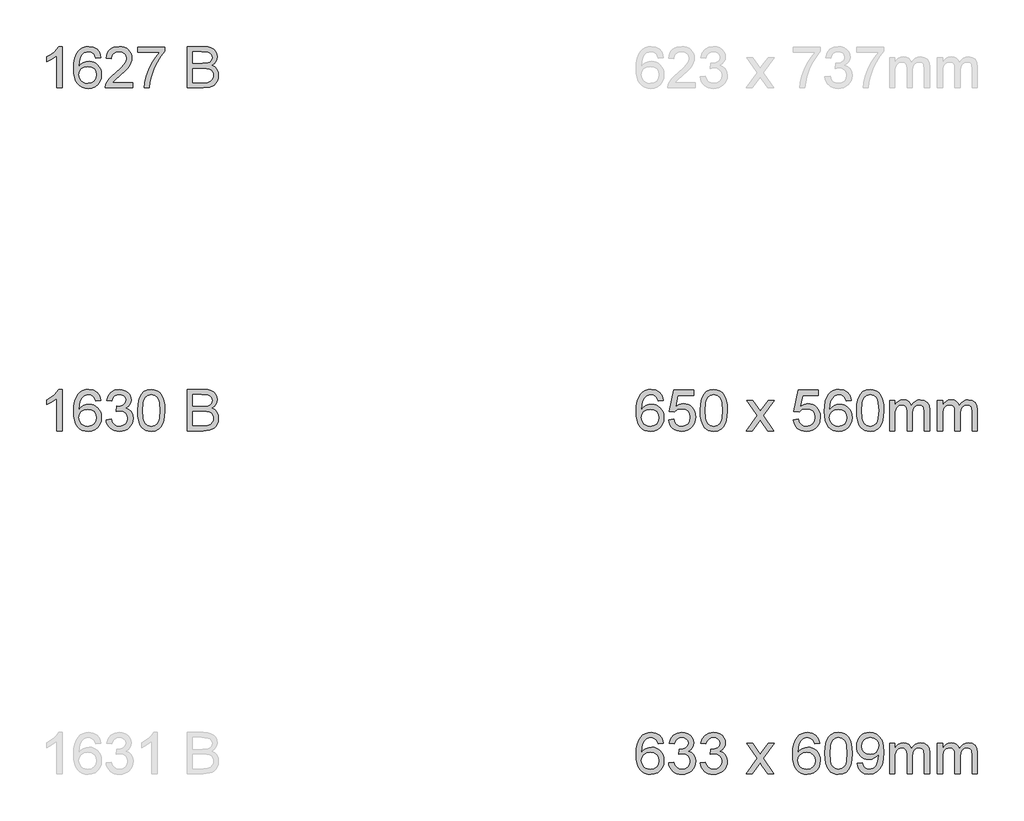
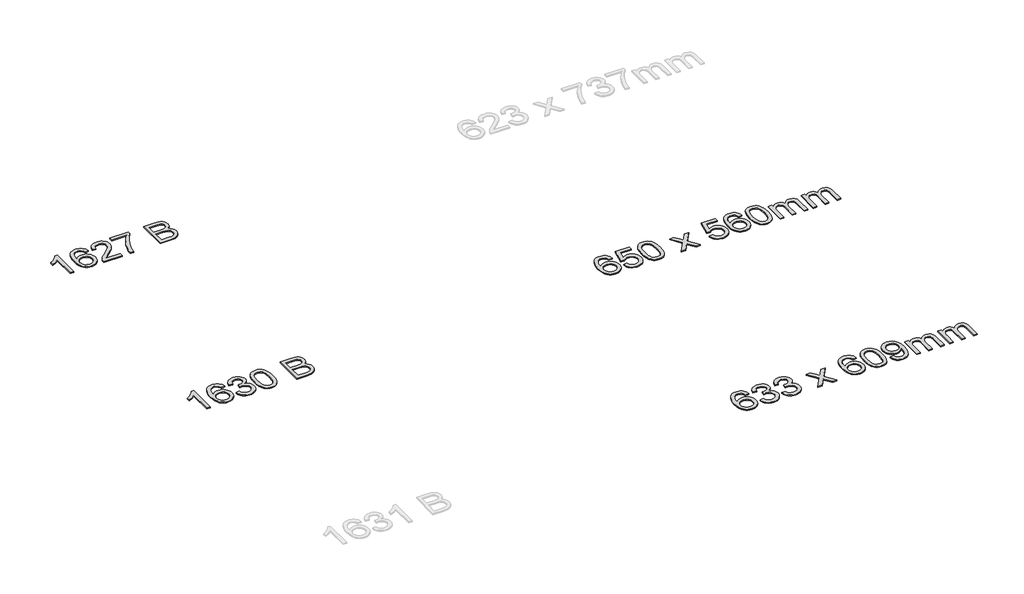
# One storey, part 29 of 39: 4 proxies.
"""IFC4 building model written with IfcOpenShell, lengths in millimetres."""

from ifc_helpers import new_model, si_unit, origin, origin_with_axes, place, context, project, spatial, polyline, outline, extrude, element, save

model = new_model("IFC4")

# Units and contexts
model_context = context("Model", 3, world=origin())
ifc_project = project(units=[si_unit("LENGTHUNIT", "METRE", prefix="MILLI")], contexts=[model_context])

# Site, building, storey
site = spatial("IfcSite", under=ifc_project)
building = spatial("IfcBuilding", under=site)
storey = spatial("IfcBuildingStorey", under=building, Name="Marelli - Linha PROFIT - Planta Baixa", Elevation=0.0)

# Proxies
placement = place(None, origin())
element("IfcBuildingElementProxy", 1, Name="300mm Arial", ObjectType="300mm Arial", at=placement, inside=storey, context=model_context, shape_type="SweptSolid", body=[
    extrude(outline(polyline([(-29517.1779543, -780.5663201), (-29554.8490706, -780.5663201), (-29554.8490706, -545.7104543), (-29590.5336241, -571.1311002), (-29630.1913032, -590.1505994), (-29630.1913032, -554.5396222), (-29600.6043938, -538.4447849), (-29574.9722158, -519.2965271), (-29554.7662972, -498.9342587), (-29541.458166, -479.1973896), (-29517.1779543, -479.1973896), (-29517.1779543, -780.5663201)])), origin_with_axes(), (0.0, 0.0, 1.0), 10.0),
    extrude(outline(polyline([(-29234.644582, -559.2485118), (-29272.3156983, -563.9574013), (-29278.3857512, -545.2873901), (-29286.5895197, -532.5402789), (-29303.6776384, -520.7864492), (-29324.3342124, -516.8685059), (-29341.8453954, -519.1493743), (-29358.3265088, -525.9919794), (-29372.4807686, -540.4037566), (-29384.0414603, -560.2417932), (-29391.8497556, -588.3019923), (-29394.7468263, -627.3802573), (-29379.6360734, -609.7495127), (-29361.5270821, -597.3242983), (-29341.4315282, -589.9574613), (-29320.3610869, -587.501849), (-29302.2612927, -589.1803106), (-29285.5594501, -594.2156954), (-29270.2555591, -602.6080034), (-29256.3496197, -614.3572346), (-29244.7935266, -628.7644133), (-29236.5391743, -645.1305635), (-29231.5865629, -663.4556854), (-29229.9356925, -683.7397789), (-29233.0442953, -710.7147262), (-29242.3701039, -735.7215049), (-29257.140566, -756.9299019), (-29276.5831295, -772.5097044), (-29299.8148775, -782.0838333), (-29325.9528932, -785.2752096), (-29348.4097898, -783.1598881), (-29368.691584, -776.8139237), (-29386.798276, -766.2373164), (-29402.7298656, -751.4300661), (-29415.7183993, -731.7667734), (-29424.9959234, -706.622039), (-29430.5624378, -675.9958629), (-29432.4179426, -639.8882451), (-29430.3578034, -599.4074301), (-29424.1773859, -564.8587122), (-29413.8766901, -536.2420915), (-29399.4557159, -513.557568), (-29383.8253296, -498.5249899), (-29365.7025428, -487.7874342), (-29345.0873555, -481.3449008), (-29321.9797677, -479.1973896), (-29288.9255704, -484.5132844), (-29262.4564608, -500.4609689), (-29243.9152083, -525.7896443), (-29234.644582, -559.2485118)]), holes=[polyline([(-29394.7468263, -683.1511677), (-29392.5671255, -699.8438133), (-29386.028023, -715.7823007), (-29375.87448, -729.485905), (-29362.8514573, -739.4739012), (-29347.1336991, -745.5715453), (-29328.8959492, -747.6040933), (-29304.0363234, -743.3918445), (-29284.4925924, -730.7550979), (-29271.8282547, -710.8894702), (-29267.6068088, -684.9905777), (-29271.7730724, -660.1309519), (-29284.2718632, -641.1758321), (-29304.146688, -629.173682), (-29330.4410536, -625.1729653), (-29355.2638912, -629.173682), (-29376.0216328, -641.1758321), (-29390.0655279, -659.6710994), (-29394.7468263, -683.1511677)])]), origin_with_axes(), (0.0, 0.0, 1.0), 10.0),
    extrude(outline(polyline([(-29003.9089946, -742.8952038), (-29003.9089946, -780.5663201), (-29201.6823552, -780.5663201), (-29197.6356533, -754.5938512), (-29188.3466329, -734.2959621), (-29174.7533932, -714.6050783), (-29155.0901006, -693.9944896), (-29127.5909214, -670.9374855), (-29086.9399609, -634.8298677), (-29062.5493847, -608.1768171), (-29050.3540965, -586.5453558), (-29046.2890005, -565.5025057), (-29050.1241703, -546.6393564), (-29061.6296797, -530.9583863), (-29079.3156066, -520.390976), (-29101.692029, -516.8685059), (-29125.1904914, -520.3082026), (-29143.4466354, -530.6272925), (-29155.2280563, -547.0164354), (-29159.3023494, -568.6662908), (-29196.9734657, -563.9574013), (-29187.8407952, -527.5186897), (-29179.2944366, -512.9827524), (-29168.0947291, -500.9024273), (-29154.4991901, -491.4064733), (-29138.765337, -484.623649), (-29100.8826886, -479.1973896), (-29080.6928648, -480.7057058), (-29062.7241286, -485.2306543), (-29046.97648, -492.7722352), (-29033.4499189, -503.3304485), (-29022.5859037, -516.1235449), (-29014.8258928, -530.3697751), (-29010.1698863, -546.0691393), (-29008.6178842, -563.2216373), (-29010.2917473, -581.238658), (-29015.3133365, -598.942979), (-29024.2252778, -616.9508027), (-29037.5701972, -635.8783314), (-29058.8429736, -658.4754829), (-29091.5384859, -687.4921753), (-29134.8749849, -723.7285518), (-29151.8711331, -742.8952038), (-29003.9089946, -742.8952038)])), origin_with_axes(), (0.0, 0.0, 1.0), 10.0),
    extrude(outline(polyline([(-28966.2378783, -521.5773955), (-28966.2378783, -483.9062792), (-28768.4645177, -483.9062792), (-28768.4645177, -514.3669084), (-28796.6534756, -550.0422648), (-28824.566522, -595.4113119), (-28849.1870245, -646.3353771), (-28867.4983508, -698.6757879), (-28876.4746715, -737.8368263), (-28881.4778666, -780.5663201), (-28919.1489829, -780.5663201), (-28915.0746899, -741.7363755), (-28904.1761857, -695.5855792), (-28886.7477762, -646.6664709), (-28863.0837669, -599.5315902), (-28835.455829, -556.9216582), (-28806.135634, -521.5773955), (-28966.2378783, -521.5773955)])), origin_with_axes(), (0.0, 0.0, 1.0), 10.0),
    extrude(outline(polyline([(-28603.6533839, -780.5663201), (-28603.6533839, -479.1973896), (-28488.6534722, -479.1973896), (-28457.0248177, -481.4138786), (-28432.3307387, -488.0633457), (-28413.4032101, -499.3113377), (-28399.0742064, -515.3234015), (-28390.0519004, -534.1589597), (-28387.0444651, -553.8774346), (-28389.5736538, -572.0232141), (-28397.16122, -589.0837416), (-28409.8623459, -604.0105535), (-28427.7322138, -615.7551862), (-28406.385861, -626.9020107), (-28390.6129205, -643.8613707), (-28380.8732447, -665.5112261), (-28377.626686, -690.7295368), (-28379.8431751, -711.7447958), (-28386.4926421, -731.2333445), (-28396.416259, -747.8064284), (-28408.4551972, -760.0752929), (-28423.1980682, -768.9596431), (-28441.233483, -775.3791839), (-28489.536389, -780.5663201), (-28603.6533839, -780.5663201)]), holes=[polyline([(-28565.9822676, -601.6285176), (-28497.1883345, -601.6285176), (-28457.0156206, -598.3911561), (-28442.9533313, -592.8085468), (-28432.8457735, -584.4484284), (-28426.7481295, -573.4395597), (-28424.7155814, -559.9106994), (-28426.6101737, -546.7773121), (-28432.2939505, -535.3361821), (-28441.5093945, -526.4058467), (-28453.9989882, -520.8048433), (-28502.4122588, -516.8685059), (-28565.9822676, -516.8685059), (-28565.9822676, -601.6285176)]), polyline([(-28565.9822676, -742.8952038), (-28488.7270486, -742.8952038), (-28460.768017, -741.4236758), (-28437.1132047, -733.2199073), (-28421.4414317, -716.4812765), (-28416.8337097, -704.6538704), (-28415.2978024, -691.0974188), (-28417.1004241, -675.3520694), (-28422.5082895, -661.814012), (-28431.9536597, -651.2282076), (-28445.8687962, -644.3396173), (-28465.578074, -640.5596298), (-28492.4058685, -639.2996339), (-28565.9822676, -639.2996339), (-28565.9822676, -742.8952038)])]), origin_with_axes(), (0.0, 0.0, 1.0), 10.0),
])
element("IfcBuildingElementProxy", 2, Name="300mm Arial", ObjectType="300mm Arial", at=placement, inside=storey, context=model_context, shape_type="SweptSolid", body=[
    extrude(outline(polyline([(-29517.1779543, -3280.5663201), (-29554.8490706, -3280.5663201), (-29554.8490706, -3045.7104543), (-29590.5336241, -3071.1311002), (-29630.1913032, -3090.1505994), (-29630.1913032, -3054.5396222), (-29600.6043938, -3038.4447849), (-29574.9722158, -3019.2965271), (-29554.7662972, -2998.9342587), (-29541.458166, -2979.1973896), (-29517.1779543, -2979.1973896), (-29517.1779543, -3280.5663201)])), origin_with_axes(), (0.0, 0.0, 1.0), 10.0),
    extrude(outline(polyline([(-29234.644582, -3059.2485118), (-29272.3156983, -3063.9574013), (-29278.3857512, -3045.2873901), (-29286.5895197, -3032.5402789), (-29303.6776384, -3020.7864492), (-29324.3342124, -3016.8685059), (-29341.8453954, -3019.1493743), (-29358.3265088, -3025.9919794), (-29372.4807686, -3040.4037566), (-29384.0414603, -3060.2417932), (-29391.8497556, -3088.3019923), (-29394.7468263, -3127.3802573), (-29379.6360734, -3109.7495127), (-29361.5270821, -3097.3242983), (-29341.4315282, -3089.9574613), (-29320.3610869, -3087.501849), (-29302.2612927, -3089.1803106), (-29285.5594501, -3094.2156954), (-29270.2555591, -3102.6080034), (-29256.3496197, -3114.3572346), (-29244.7935266, -3128.7644133), (-29236.5391743, -3145.1305635), (-29231.5865629, -3163.4556854), (-29229.9356925, -3183.7397789), (-29233.0442953, -3210.7147262), (-29242.3701039, -3235.7215049), (-29257.140566, -3256.9299019), (-29276.5831295, -3272.5097044), (-29299.8148775, -3282.0838333), (-29325.9528932, -3285.2752096), (-29348.4097898, -3283.1598881), (-29368.691584, -3276.8139237), (-29386.798276, -3266.2373164), (-29402.7298656, -3251.4300661), (-29415.7183993, -3231.7667734), (-29424.9959234, -3206.622039), (-29430.5624378, -3175.9958629), (-29432.4179426, -3139.8882451), (-29430.3578034, -3099.4074301), (-29424.1773859, -3064.8587122), (-29413.8766901, -3036.2420915), (-29399.4557159, -3013.557568), (-29383.8253296, -2998.5249899), (-29365.7025428, -2987.7874342), (-29345.0873555, -2981.3449008), (-29321.9797677, -2979.1973896), (-29288.9255704, -2984.5132844), (-29262.4564608, -3000.4609689), (-29243.9152083, -3025.7896443), (-29234.644582, -3059.2485118)]), holes=[polyline([(-29394.7468263, -3183.1511677), (-29392.5671255, -3199.8438133), (-29386.028023, -3215.7823007), (-29375.87448, -3229.485905), (-29362.8514573, -3239.4739012), (-29347.1336991, -3245.5715453), (-29328.8959492, -3247.6040933), (-29304.0363234, -3243.3918445), (-29284.4925924, -3230.7550979), (-29271.8282547, -3210.8894702), (-29267.6068088, -3184.9905777), (-29271.7730724, -3160.1309519), (-29284.2718632, -3141.1758321), (-29304.146688, -3129.173682), (-29330.4410536, -3125.1729653), (-29355.2638912, -3129.173682), (-29376.0216328, -3141.1758321), (-29390.0655279, -3159.6710994), (-29394.7468263, -3183.1511677)])]), origin_with_axes(), (0.0, 0.0, 1.0), 10.0),
    extrude(outline(polyline([(-29196.9734657, -3200.5151979), (-29159.3023494, -3195.8063084), (-29150.8686547, -3219.4795148), (-29138.5170167, -3235.4639875), (-29121.6404301, -3244.5690668), (-29099.6318898, -3247.6040933), (-29073.8065737, -3243.4286327), (-29053.8673696, -3230.9022507), (-29041.1202585, -3212.2138454), (-29036.8712214, -3189.5523145), (-29041.0834703, -3168.0404148), (-29053.7202168, -3150.5936112), (-29072.8500805, -3139.0329195), (-29096.541681, -3135.1793556), (-29122.9556083, -3139.2996339), (-29118.7617535, -3101.6285176), (-29112.7284888, -3102.069976), (-29090.1589284, -3099.3660433), (-29069.980601, -3091.2542454), (-29055.7435678, -3077.5322469), (-29050.99789, -3057.997713), (-29054.4375867, -3041.7281317), (-29064.7566766, -3028.5303652), (-29080.502026, -3019.7839707), (-29100.220501, -3016.8685059), (-29119.9757641, -3019.8115619), (-29136.1257837, -3028.6407298), (-29147.9164016, -3043.3560096), (-29154.5934599, -3063.9574013), (-29192.2645762, -3059.2485118), (-29181.172934, -3025.4217623), (-29161.436065, -3000.1666633), (-29134.4335265, -2984.4397081), (-29101.5448762, -2979.1973896), (-29077.8624727, -2981.7817606), (-29056.1114498, -2989.5348737), (-29037.7725323, -3001.76695), (-29024.3264454, -3017.7882109), (-29016.0766916, -3036.24669), (-29013.3267737, -3055.790421), (-29015.9387359, -3074.0005798), (-29023.7746224, -3090.5184814), (-29036.7240686, -3104.5899677), (-29054.67671, -3115.4608806), (-29031.0954741, -3124.9890243), (-29013.6210793, -3141.2126203), (-29002.8053487, -3163.2487518), (-28999.2001051, -3190.2145021), (-29001.0027269, -3209.3259717), (-29006.4105922, -3226.9291252), (-29015.4237011, -3243.0239625), (-29028.0420535, -3257.6104836), (-29043.4149224, -3269.7138012), (-29060.6915806, -3278.3590281), (-29079.8720281, -3283.5461642), (-29100.956265, -3285.2752096), (-29120.0125523, -3283.7990831), (-29137.3765825, -3279.3707036), (-29153.0483555, -3271.9900711), (-29167.0278713, -3261.6571855), (-29178.7495114, -3248.9790523), (-29187.6476571, -3234.5626766), (-29193.7223086, -3218.4080585), (-29196.9734657, -3200.5151979)])), origin_with_axes(), (0.0, 0.0, 1.0), 10.0),
    extrude(outline(polyline([(-28966.2378783, -3132.309876), (-28963.4695663, -3084.0713494), (-28955.1646303, -3045.6000897), (-28941.4058437, -3016.3074859), (-28922.2759799, -2995.6049266), (-28897.6370833, -2983.2992739), (-28867.351198, -2979.1973896), (-28844.1378441, -2981.6254108), (-28823.3525114, -2988.9094743), (-28805.9700871, -3000.7644716), (-28792.9654586, -3016.9052941), (-28783.1430093, -3037.1939862), (-28775.3071228, -3061.4925919), (-28770.175169, -3092.3486943), (-28768.4645177, -3132.309876), (-28771.2052386, -3180.2724911), (-28779.4274012, -3218.6517803), (-28793.1034144, -3247.9719753), (-28812.205687, -3268.757308), (-28836.8997659, -3281.1457342), (-28867.351198, -3285.2752096), (-28888.0997426, -3283.4817849), (-28906.4938423, -3278.1015107), (-28922.5334973, -3269.1343871), (-28936.2187075, -3256.580414), (-28949.3520948, -3233.8866934), (-28958.7330856, -3205.6103636), (-28964.3616802, -3171.7514244), (-28966.2378783, -3132.309876)]), holes=[polyline([(-28928.566762, -3132.2362996), (-28924.1521781, -3191.492892), (-28918.6339482, -3211.7608907), (-28910.9084263, -3225.788691), (-28891.1899513, -3242.1502427), (-28867.351198, -3247.6040933), (-28843.5124447, -3242.1318486), (-28823.7939698, -3225.7151146), (-28816.0684479, -3211.6643216), (-28810.550218, -3191.4009215), (-28806.135634, -3132.2362996), (-28810.4030652, -3074.3132795), (-28815.7373541, -3054.1119594), (-28823.2053586, -3039.750766), (-28842.8870453, -3022.589071), (-28867.7926564, -3016.8685059), (-28891.3738923, -3021.9084893), (-28910.3198151, -3037.0284393), (-28918.3028544, -3052.6634241), (-28924.0050253, -3073.7430624), (-28928.566762, -3132.2362996)])]), origin_with_axes(), (0.0, 0.0, 1.0), 10.0),
    extrude(outline(polyline([(-28603.6533839, -3280.5663201), (-28603.6533839, -2979.1973896), (-28488.6534722, -2979.1973896), (-28457.0248177, -2981.4138786), (-28432.3307387, -2988.0633457), (-28413.4032101, -2999.3113377), (-28399.0742064, -3015.3234015), (-28390.0519004, -3034.1589597), (-28387.0444651, -3053.8774346), (-28389.5736538, -3072.0232141), (-28397.16122, -3089.0837416), (-28409.8623459, -3104.0105535), (-28427.7322138, -3115.7551862), (-28406.385861, -3126.9020107), (-28390.6129205, -3143.8613707), (-28380.8732447, -3165.5112261), (-28377.626686, -3190.7295368), (-28379.8431751, -3211.7447958), (-28386.4926421, -3231.2333445), (-28396.416259, -3247.8064284), (-28408.4551972, -3260.0752929), (-28423.1980682, -3268.9596431), (-28441.233483, -3275.3791839), (-28489.536389, -3280.5663201), (-28603.6533839, -3280.5663201)]), holes=[polyline([(-28565.9822676, -3101.6285176), (-28497.1883345, -3101.6285176), (-28457.0156206, -3098.3911561), (-28442.9533313, -3092.8085468), (-28432.8457735, -3084.4484284), (-28426.7481295, -3073.4395597), (-28424.7155814, -3059.9106994), (-28426.6101737, -3046.7773121), (-28432.2939505, -3035.3361821), (-28441.5093945, -3026.4058467), (-28453.9989882, -3020.8048433), (-28502.4122588, -3016.8685059), (-28565.9822676, -3016.8685059), (-28565.9822676, -3101.6285176)]), polyline([(-28565.9822676, -3242.8952038), (-28488.7270486, -3242.8952038), (-28460.768017, -3241.4236758), (-28437.1132047, -3233.2199073), (-28421.4414317, -3216.4812765), (-28416.8337097, -3204.6538704), (-28415.2978024, -3191.0974188), (-28417.1004241, -3175.3520694), (-28422.5082895, -3161.814012), (-28431.9536597, -3151.2282076), (-28445.8687962, -3144.3396173), (-28465.578074, -3140.5596298), (-28492.4058685, -3139.2996339), (-28565.9822676, -3139.2996339), (-28565.9822676, -3242.8952038)])]), origin_with_axes(), (0.0, 0.0, 1.0), 10.0),
])
element("IfcBuildingElementProxy", 3, Name="300mm Arial", ObjectType="300mm Arial", at=placement, inside=storey, context=model_context, shape_type="SweptSolid", body=[
    extrude(outline(polyline([(-25136.3969286, -5559.2485118), (-25174.0680449, -5563.9574013), (-25180.1380978, -5545.2873901), (-25188.3418663, -5532.5402789), (-25205.429985, -5520.7864492), (-25226.086559, -5516.8685059), (-25243.597742, -5519.1493743), (-25260.0788554, -5525.9919794), (-25274.2331151, -5540.4037566), (-25285.7938068, -5560.2417932), (-25293.6021022, -5588.3019923), (-25296.4991729, -5627.3802573), (-25281.3884199, -5609.7495127), (-25263.2794287, -5597.3242983), (-25243.1838747, -5589.9574613), (-25222.1134335, -5587.501849), (-25204.0136393, -5589.1803106), (-25187.3117967, -5594.2156954), (-25172.0079057, -5602.6080034), (-25158.1019663, -5614.3572346), (-25146.5458731, -5628.7644133), (-25138.2915209, -5645.1305635), (-25133.3389095, -5663.4556854), (-25131.6880391, -5683.7397789), (-25134.7966419, -5710.7147262), (-25144.1224505, -5735.7215049), (-25158.8929126, -5756.9299019), (-25178.335476, -5772.5097044), (-25201.567224, -5782.0838333), (-25227.7052398, -5785.2752096), (-25250.1621363, -5783.1598881), (-25270.4439306, -5776.8139237), (-25288.5506225, -5766.2373164), (-25304.4822122, -5751.4300661), (-25317.4707459, -5731.7667734), (-25326.7482699, -5706.622039), (-25332.3147844, -5675.9958629), (-25334.1702892, -5639.8882451), (-25332.11015, -5599.4074301), (-25325.9297325, -5564.8587122), (-25315.6290366, -5536.2420915), (-25301.2080624, -5513.557568), (-25285.5776762, -5498.5249899), (-25267.4548894, -5487.7874342), (-25246.8397021, -5481.3449008), (-25223.7321142, -5479.1973896), (-25190.677917, -5484.5132844), (-25164.2088074, -5500.4609689), (-25145.6675549, -5525.7896443), (-25136.3969286, -5559.2485118)]), holes=[polyline([(-25296.4991729, -5683.1511677), (-25294.3194721, -5699.8438133), (-25287.7803696, -5715.7823007), (-25277.6268265, -5729.485905), (-25264.6038039, -5739.4739012), (-25248.8860457, -5745.5715453), (-25230.6482958, -5747.6040933), (-25205.7886699, -5743.3918445), (-25186.2449389, -5730.7550979), (-25173.5806013, -5710.8894702), (-25169.3591554, -5684.9905777), (-25173.525419, -5660.1309519), (-25186.0242097, -5641.1758321), (-25205.8990345, -5629.173682), (-25232.1934001, -5625.1729653), (-25257.0162378, -5629.173682), (-25277.7739793, -5641.1758321), (-25291.8178745, -5659.6710994), (-25296.4991729, -5683.1511677)])]), origin_with_axes(), (0.0, 0.0, 1.0), 10.0),
    extrude(outline(polyline([(-25098.7258123, -5700.5151979), (-25061.054696, -5695.8063084), (-25052.6210012, -5719.4795148), (-25040.2693633, -5735.4639875), (-25023.3927767, -5744.5690668), (-25001.3842364, -5747.6040933), (-24975.5589203, -5743.4286327), (-24955.6197162, -5730.9022507), (-24942.872605, -5712.2138454), (-24938.623568, -5689.5523145), (-24942.8358168, -5668.0404148), (-24955.4725634, -5650.5936112), (-24974.6024271, -5639.0329195), (-24998.2940276, -5635.1793556), (-25024.7079549, -5639.2996339), (-25020.5141001, -5601.6285176), (-25014.4808354, -5602.069976), (-24991.911275, -5599.3660433), (-24971.7329475, -5591.2542454), (-24957.4959143, -5577.5322469), (-24952.7502366, -5557.997713), (-24956.1899333, -5541.7281317), (-24966.5090232, -5528.5303652), (-24982.2543726, -5519.7839707), (-25001.9728476, -5516.8685059), (-25021.7281107, -5519.8115619), (-25037.8781303, -5528.6407298), (-25049.6687482, -5543.3560096), (-25056.3458064, -5563.9574013), (-25094.0169227, -5559.2485118), (-25082.9252806, -5525.4217623), (-25063.1884115, -5500.1666633), (-25036.1858731, -5484.4397081), (-25003.2972227, -5479.1973896), (-24979.6148193, -5481.7817606), (-24957.8637963, -5489.5348737), (-24939.5248789, -5501.76695), (-24926.0787919, -5517.7882109), (-24917.8290382, -5536.24669), (-24915.0791203, -5555.790421), (-24917.6910825, -5574.0005798), (-24925.526969, -5590.5184814), (-24938.4764152, -5604.5899677), (-24956.4290565, -5615.4608806), (-24932.8478207, -5624.9890243), (-24915.3734259, -5641.2126203), (-24904.5576952, -5663.2487518), (-24900.9524517, -5690.2145021), (-24902.7550735, -5709.3259717), (-24908.1629388, -5726.9291252), (-24917.1760477, -5743.0239625), (-24929.7944001, -5757.6104836), (-24945.167269, -5769.7138012), (-24962.4439272, -5778.3590281), (-24981.6243747, -5783.5461642), (-25002.7086115, -5785.2752096), (-25021.7648989, -5783.7990831), (-25039.1289291, -5779.3707036), (-25054.8007021, -5771.9900711), (-25068.7802179, -5761.6571855), (-25080.5018579, -5748.9790523), (-25089.4000037, -5734.5626766), (-25095.4746552, -5718.4080585), (-25098.7258123, -5700.5151979)])), origin_with_axes(), (0.0, 0.0, 1.0), 10.0),
    extrude(outline(polyline([(-24867.9902249, -5700.5151979), (-24830.3191086, -5695.8063084), (-24821.8854139, -5719.4795148), (-24809.5337759, -5735.4639875), (-24792.6571893, -5744.5690668), (-24770.648649, -5747.6040933), (-24744.8233329, -5743.4286327), (-24724.8841288, -5730.9022507), (-24712.1370177, -5712.2138454), (-24707.8879806, -5689.5523145), (-24712.1002295, -5668.0404148), (-24724.736976, -5650.5936112), (-24743.8668397, -5639.0329195), (-24767.5584402, -5635.1793556), (-24793.9723675, -5639.2996339), (-24789.7785127, -5601.6285176), (-24783.745248, -5602.069976), (-24761.1756876, -5599.3660433), (-24740.9973602, -5591.2542454), (-24726.760327, -5577.5322469), (-24722.0146492, -5557.997713), (-24725.4543459, -5541.7281317), (-24735.7734358, -5528.5303652), (-24751.5187852, -5519.7839707), (-24771.2372602, -5516.8685059), (-24790.9925233, -5519.8115619), (-24807.1425429, -5528.6407298), (-24818.9331609, -5543.3560096), (-24825.6102191, -5563.9574013), (-24863.2813354, -5559.2485118), (-24852.1896932, -5525.4217623), (-24832.4528242, -5500.1666633), (-24805.4502857, -5484.4397081), (-24772.5616354, -5479.1973896), (-24748.8792319, -5481.7817606), (-24727.128209, -5489.5348737), (-24708.7892915, -5501.76695), (-24695.3432046, -5517.7882109), (-24687.0934508, -5536.24669), (-24684.3435329, -5555.790421), (-24686.9554951, -5574.0005798), (-24694.7913816, -5590.5184814), (-24707.7408278, -5604.5899677), (-24725.6934692, -5615.4608806), (-24702.1122333, -5624.9890243), (-24684.6378385, -5641.2126203), (-24673.8221079, -5663.2487518), (-24670.2168643, -5690.2145021), (-24672.0194861, -5709.3259717), (-24677.4273514, -5726.9291252), (-24686.4404603, -5743.0239625), (-24699.0588127, -5757.6104836), (-24714.4316816, -5769.7138012), (-24731.7083398, -5778.3590281), (-24750.8887873, -5783.5461642), (-24771.9730242, -5785.2752096), (-24791.0293115, -5783.7990831), (-24808.3933417, -5779.3707036), (-24824.0651147, -5771.9900711), (-24838.0446305, -5761.6571855), (-24849.7662706, -5748.9790523), (-24858.6644163, -5734.5626766), (-24864.7390678, -5718.4080585), (-24867.9902249, -5700.5151979)])), origin_with_axes(), (0.0, 0.0, 1.0), 10.0),
    extrude(outline(polyline([(-24533.6590677, -5780.5663201), (-24453.1664871, -5669.3188047), (-24528.9501782, -5559.2485118), (-24483.6271163, -5559.2485118), (-24447.059646, -5612.2235191), (-24429.9899215, -5637.2394947), (-24415.2010652, -5616.7852558), (-24373.5568234, -5559.2485118), (-24328.2337616, -5559.2485118), (-24407.8434253, -5669.3188047), (-24331.1768175, -5780.5663201), (-24376.4998794, -5780.5663201), (-24422.6322815, -5713.6853733), (-24431.0935674, -5701.4716911), (-24488.3360059, -5780.5663201), (-24533.6590677, -5780.5663201)])), origin_with_axes(), (0.0, 0.0, 1.0), 10.0),
    extrude(outline(polyline([(-23996.8456603, -5559.2485118), (-24034.5167766, -5563.9574013), (-24040.5868296, -5545.2873901), (-24048.790598, -5532.5402789), (-24065.8787167, -5520.7864492), (-24086.5352908, -5516.8685059), (-24104.0464737, -5519.1493743), (-24120.5275871, -5525.9919794), (-24134.6818469, -5540.4037566), (-24146.2425386, -5560.2417932), (-24154.0508339, -5588.3019923), (-24156.9479046, -5627.3802573), (-24141.8371517, -5609.7495127), (-24123.7281605, -5597.3242983), (-24103.6326065, -5589.9574613), (-24082.5621652, -5587.501849), (-24064.462371, -5589.1803106), (-24047.7605285, -5594.2156954), (-24032.4566375, -5602.6080034), (-24018.550698, -5614.3572346), (-24006.9946049, -5628.7644133), (-23998.7402526, -5645.1305635), (-23993.7876412, -5663.4556854), (-23992.1367708, -5683.7397789), (-23995.2453737, -5710.7147262), (-24004.5711822, -5735.7215049), (-24019.3416443, -5756.9299019), (-24038.7842078, -5772.5097044), (-24062.0159558, -5782.0838333), (-24088.1539715, -5785.2752096), (-24110.6108681, -5783.1598881), (-24130.8926623, -5776.8139237), (-24148.9993543, -5766.2373164), (-24164.9309439, -5751.4300661), (-24177.9194776, -5731.7667734), (-24187.1970017, -5706.622039), (-24192.7635161, -5675.9958629), (-24194.6190209, -5639.8882451), (-24192.5588818, -5599.4074301), (-24186.3784642, -5564.8587122), (-24176.0777684, -5536.2420915), (-24161.6567942, -5513.557568), (-24146.0264079, -5498.5249899), (-24127.9036211, -5487.7874342), (-24107.2884338, -5481.3449008), (-24084.180846, -5479.1973896), (-24051.1266487, -5484.5132844), (-24024.6575392, -5500.4609689), (-24006.1162866, -5525.7896443), (-23996.8456603, -5559.2485118)]), holes=[polyline([(-24156.9479046, -5683.1511677), (-24154.7682038, -5699.8438133), (-24148.2291013, -5715.7823007), (-24138.0755583, -5729.485905), (-24125.0525356, -5739.4739012), (-24109.3347774, -5745.5715453), (-24091.0970275, -5747.6040933), (-24066.2374017, -5743.3918445), (-24046.6936707, -5730.7550979), (-24034.029333, -5710.8894702), (-24029.8078871, -5684.9905777), (-24033.9741507, -5660.1309519), (-24046.4729415, -5641.1758321), (-24066.3477663, -5629.173682), (-24092.6421319, -5625.1729653), (-24117.4649695, -5629.173682), (-24138.2227111, -5641.1758321), (-24152.2666062, -5659.6710994), (-24156.9479046, -5683.1511677)])]), origin_with_axes(), (0.0, 0.0, 1.0), 10.0),
    extrude(outline(polyline([(-23959.174544, -5632.309876), (-23956.406232, -5584.0713494), (-23948.101296, -5545.6000897), (-23934.3425093, -5516.3074859), (-23915.2126456, -5495.6049266), (-23890.573749, -5483.2992739), (-23860.2878637, -5479.1973896), (-23837.0745098, -5481.6254108), (-23816.2891771, -5488.9094743), (-23798.9067528, -5500.7644716), (-23785.9021243, -5516.9052941), (-23776.079675, -5537.1939862), (-23768.2437885, -5561.4925919), (-23763.1118347, -5592.3486943), (-23761.4011834, -5632.309876), (-23764.1419043, -5680.2724911), (-23772.3640669, -5718.6517803), (-23786.04008, -5747.9719753), (-23805.1423526, -5768.757308), (-23829.8364316, -5781.1457342), (-23860.2878637, -5785.2752096), (-23881.0364082, -5783.4817849), (-23899.430508, -5778.1015107), (-23915.470163, -5769.1343871), (-23929.1553732, -5756.580414), (-23942.2887604, -5733.8866934), (-23951.6697513, -5705.6103636), (-23957.2983458, -5671.7514244), (-23959.174544, -5632.309876)]), holes=[polyline([(-23921.5034277, -5632.2362996), (-23917.0888438, -5691.492892), (-23911.5706138, -5711.7608907), (-23903.8450919, -5725.788691), (-23884.126617, -5742.1502427), (-23860.2878637, -5747.6040933), (-23836.4491104, -5742.1318486), (-23816.7306355, -5725.7151146), (-23809.0051136, -5711.6643216), (-23803.4868837, -5691.4009215), (-23799.0722997, -5632.2362996), (-23803.3397309, -5574.3132795), (-23808.6740198, -5554.1119594), (-23816.1420243, -5539.750766), (-23835.823711, -5522.589071), (-23860.7293221, -5516.8685059), (-23884.310558, -5521.9084893), (-23903.2564808, -5537.0284393), (-23911.2395201, -5552.6634241), (-23916.941691, -5573.7430624), (-23921.5034277, -5632.2362996)])]), origin_with_axes(), (0.0, 0.0, 1.0), 10.0),
    extrude(outline(polyline([(-23723.7300671, -5705.2240875), (-23686.0589508, -5700.5151979), (-23679.6210159, -5721.8983389), (-23669.136379, -5736.4572688), (-23654.8625576, -5744.8173872), (-23637.057069, -5747.6040933), (-23621.0817934, -5745.8106686), (-23606.5596516, -5740.4303944), (-23594.4931222, -5732.051882), (-23585.8846835, -5721.2637424), (-23573.5606367, -5688.5222449), (-23568.1159832, -5644.8178638), (-23568.3367123, -5637.4602239), (-23581.3873261, -5653.3895143), (-23598.4662478, -5666.0078668), (-23618.3410725, -5674.2300294), (-23639.7793958, -5676.9707502), (-23657.6745556, -5675.2968871), (-23674.1303771, -5670.2752979), (-23689.1468603, -5661.9059825), (-23702.7240052, -5650.188941), (-23713.9742965, -5635.7357771), (-23722.0102188, -5619.1580947), (-23726.8317722, -5600.4558938), (-23728.4389566, -5579.6291743), (-23726.7535973, -5558.1080776), (-23721.6975191, -5538.7942728), (-23713.2707221, -5521.6877601), (-23701.4732064, -5506.7885393), (-23687.1373049, -5494.7174113), (-23671.0953507, -5486.095177), (-23653.3473436, -5480.9218365), (-23633.8932839, -5479.1973896), (-23605.7962965, -5483.133727), (-23580.2193008, -5494.942739), (-23558.8269628, -5514.0358146), (-23543.2839485, -5539.8243424), (-23533.8201842, -5575.4721078), (-23530.665596, -5624.1428957), (-23533.8109871, -5675.7475426), (-23543.2471603, -5715.6351479), (-23558.8913421, -5745.6083335), (-23580.6607592, -5767.469721), (-23607.6173124, -5780.8238375), (-23638.8229026, -5785.2752096), (-23671.0309713, -5780.0236941), (-23696.7275287, -5764.2691477), (-23714.6985641, -5739.0048517), (-23723.7300671, -5705.2240875)]), holes=[polyline([(-23568.3367123, -5578.7462575), (-23572.4018084, -5553.215247), (-23584.5970965, -5533.5703485), (-23603.5246252, -5521.0439666), (-23627.7864428, -5516.8685059), (-23652.9495712, -5521.3658633), (-23673.1095046, -5534.8579355), (-23686.3532564, -5555.5053125), (-23690.7678403, -5581.4685843), (-23686.5923797, -5604.7463175), (-23674.0659978, -5623.2231907), (-23654.4027051, -5635.2805231), (-23628.8165124, -5639.2996339), (-23604.7478328, -5635.2805231), (-23585.3696487, -5623.2231907), (-23572.5949464, -5604.0657358), (-23568.3367123, -5578.7462575)])]), origin_with_axes(), (0.0, 0.0, 1.0), 10.0),
    extrude(outline(polyline([(-23488.2855902, -5780.5663201), (-23488.2855902, -5559.2485118), (-23450.6144739, -5559.2485118), (-23450.6144739, -5595.6688293), (-23439.2837084, -5578.9393956), (-23424.7155814, -5565.8335995), (-23407.4067336, -5557.3631165), (-23387.8538055, -5554.5396222), (-23366.9029259, -5557.4182988), (-23350.1091128, -5566.0543287), (-23337.5643368, -5579.8774946), (-23329.3605683, -5598.3175797), (-23315.6293728, -5579.1647233), (-23299.9667969, -5565.4841116), (-23282.3728404, -5557.2757446), (-23262.8475036, -5554.5396222), (-23234.529787, -5559.0921619), (-23213.5881044, -5572.749781), (-23200.6478552, -5595.8803614), (-23196.3344388, -5628.8517853), (-23196.3344388, -5780.5663201), (-23234.0055551, -5780.5663201), (-23234.0055551, -5645.038593), (-23237.5004341, -5613.5846825), (-23242.4116587, -5604.9118644), (-23250.1555747, -5598.0968505), (-23260.1159797, -5593.6822665), (-23271.6766714, -5592.2107385), (-23292.0849251, -5595.981529), (-23308.7223884, -5607.2939003), (-23319.7864394, -5626.9204048), (-23323.4744564, -5655.6335945), (-23323.4744564, -5780.5663201), (-23361.1455727, -5780.5663201), (-23361.1455727, -5640.8447383), (-23363.3252735, -5619.5443708), (-23369.864376, -5604.3508444), (-23381.3698853, -5595.245765), (-23398.448807, -5592.2107385), (-23412.9617517, -5594.2340895), (-23426.3342622, -5600.3041424), (-23437.3707221, -5610.2737445), (-23444.8755148, -5623.9957429), (-23449.1797341, -5643.0336362), (-23450.6144739, -5668.9509227), (-23450.6144739, -5780.5663201), (-23488.2855902, -5780.5663201)])), origin_with_axes(), (0.0, 0.0, 1.0), 10.0),
    extrude(outline(polyline([(-23139.8277644, -5780.5663201), (-23139.8277644, -5559.2485118), (-23102.1566481, -5559.2485118), (-23102.1566481, -5595.6688293), (-23090.8258826, -5578.9393956), (-23076.2577556, -5565.8335995), (-23058.9489077, -5557.3631165), (-23039.3959797, -5554.5396222), (-23018.4451001, -5557.4182988), (-23001.651287, -5566.0543287), (-22989.1065109, -5579.8774946), (-22980.9027425, -5598.3175797), (-22967.171547, -5579.1647233), (-22951.508971, -5565.4841116), (-22933.9150146, -5557.2757446), (-22914.3896777, -5554.5396222), (-22886.0719611, -5559.0921619), (-22865.1302786, -5572.749781), (-22852.1900294, -5595.8803614), (-22847.876613, -5628.8517853), (-22847.876613, -5780.5663201), (-22885.5477293, -5780.5663201), (-22885.5477293, -5645.038593), (-22889.0426083, -5613.5846825), (-22893.9538329, -5604.9118644), (-22901.6977489, -5598.0968505), (-22911.6581539, -5593.6822665), (-22923.2188456, -5592.2107385), (-22943.6270993, -5595.981529), (-22960.2645625, -5607.2939003), (-22971.3286135, -5626.9204048), (-22975.0166305, -5655.6335945), (-22975.0166305, -5780.5663201), (-23012.6877468, -5780.5663201), (-23012.6877468, -5640.8447383), (-23014.8674477, -5619.5443708), (-23021.4065501, -5604.3508444), (-23032.9120595, -5595.245765), (-23049.9909811, -5592.2107385), (-23064.5039259, -5594.2340895), (-23077.8764364, -5600.3041424), (-23088.9128962, -5610.2737445), (-23096.4176889, -5623.9957429), (-23100.7219083, -5643.0336362), (-23102.1566481, -5668.9509227), (-23102.1566481, -5780.5663201), (-23139.8277644, -5780.5663201)])), origin_with_axes(), (0.0, 0.0, 1.0), 10.0),
])
element("IfcBuildingElementProxy", 4, Name="300mm Arial", ObjectType="300mm Arial", at=placement, inside=storey, context=model_context, shape_type="SweptSolid", body=[
    extrude(outline(polyline([(-25136.3969286, -3059.2485118), (-25174.0680449, -3063.9574013), (-25180.1380978, -3045.2873901), (-25188.3418663, -3032.5402789), (-25205.429985, -3020.7864492), (-25226.086559, -3016.8685059), (-25243.597742, -3019.1493743), (-25260.0788554, -3025.9919794), (-25274.2331151, -3040.4037566), (-25285.7938068, -3060.2417932), (-25293.6021022, -3088.3019923), (-25296.4991729, -3127.3802573), (-25281.3884199, -3109.7495127), (-25263.2794287, -3097.3242983), (-25243.1838747, -3089.9574613), (-25222.1134335, -3087.501849), (-25204.0136393, -3089.1803106), (-25187.3117967, -3094.2156954), (-25172.0079057, -3102.6080034), (-25158.1019663, -3114.3572346), (-25146.5458731, -3128.7644133), (-25138.2915209, -3145.1305635), (-25133.3389095, -3163.4556854), (-25131.6880391, -3183.7397789), (-25134.7966419, -3210.7147262), (-25144.1224505, -3235.7215049), (-25158.8929126, -3256.9299019), (-25178.335476, -3272.5097044), (-25201.567224, -3282.0838333), (-25227.7052398, -3285.2752096), (-25250.1621363, -3283.1598881), (-25270.4439306, -3276.8139237), (-25288.5506225, -3266.2373164), (-25304.4822122, -3251.4300661), (-25317.4707459, -3231.7667734), (-25326.7482699, -3206.622039), (-25332.3147844, -3175.9958629), (-25334.1702892, -3139.8882451), (-25332.11015, -3099.4074301), (-25325.9297325, -3064.8587122), (-25315.6290366, -3036.2420915), (-25301.2080624, -3013.557568), (-25285.5776762, -2998.5249899), (-25267.4548894, -2987.7874342), (-25246.8397021, -2981.3449008), (-25223.7321142, -2979.1973896), (-25190.677917, -2984.5132844), (-25164.2088074, -3000.4609689), (-25145.6675549, -3025.7896443), (-25136.3969286, -3059.2485118)]), holes=[polyline([(-25296.4991729, -3183.1511677), (-25294.3194721, -3199.8438133), (-25287.7803696, -3215.7823007), (-25277.6268265, -3229.485905), (-25264.6038039, -3239.4739012), (-25248.8860457, -3245.5715453), (-25230.6482958, -3247.6040933), (-25205.7886699, -3243.3918445), (-25186.2449389, -3230.7550979), (-25173.5806013, -3210.8894702), (-25169.3591554, -3184.9905777), (-25173.525419, -3160.1309519), (-25186.0242097, -3141.1758321), (-25205.8990345, -3129.173682), (-25232.1934001, -3125.1729653), (-25257.0162378, -3129.173682), (-25277.7739793, -3141.1758321), (-25291.8178745, -3159.6710994), (-25296.4991729, -3183.1511677)])]), origin_with_axes(), (0.0, 0.0, 1.0), 10.0),
    extrude(outline(polyline([(-25098.7258123, -3200.5151979), (-25061.054696, -3195.8063084), (-25054.1385145, -3218.421854), (-25042.071985, -3234.6178589), (-25024.91029, -3244.3575347), (-25002.7086115, -3247.6040933), (-24975.7060731, -3243.0883418), (-24955.4725634, -3229.5410873), (-24942.8358168, -3208.5258284), (-24938.623568, -3181.6060634), (-24942.5691024, -3156.2589939), (-24954.4057056, -3136.8716128), (-24974.2253481, -3124.56596), (-25002.1200004, -3120.4640758), (-25020.3945385, -3122.1011506), (-25035.1925917, -3127.0123753), (-25056.3458064, -3144.0085235), (-25094.0169227, -3139.2996339), (-25061.054696, -2983.9062792), (-24915.0791203, -2983.9062792), (-24915.0791203, -3021.5773955), (-25030.5940668, -3021.5773955), (-25046.7072982, -3104.5715736), (-25019.7967302, -3088.237613), (-24991.5985753, -3082.7929595), (-24973.25276, -3084.4806181), (-24956.4014654, -3089.5435941), (-24941.0446914, -3097.9818873), (-24927.1824379, -3109.7954979), (-24915.7068189, -3124.2624574), (-24907.5099482, -3140.6607973), (-24902.5918258, -3158.9905177), (-24900.9524517, -3179.2516186), (-24906.8569577, -3216.9227349), (-24914.2375902, -3233.716548), (-24924.5704758, -3249.1491977), (-24940.2238547, -3264.9543279), (-24958.4891957, -3276.2437066), (-24979.3664989, -3283.0173339), (-25002.8557643, -3285.2752096), (-25039.855496, -3279.4718711), (-25055.5341668, -3272.217698), (-25069.3320409, -3262.0618557), (-25080.8122584, -3249.5101819), (-25089.5379595, -3235.0685143), (-25098.7258123, -3200.5151979)])), origin_with_axes(), (0.0, 0.0, 1.0), 10.0),
    extrude(outline(polyline([(-24867.9902249, -3132.309876), (-24865.2219129, -3084.0713494), (-24856.9169769, -3045.6000897), (-24843.1581902, -3016.3074859), (-24824.0283265, -2995.6049266), (-24799.3894299, -2983.2992739), (-24769.1035446, -2979.1973896), (-24745.8901907, -2981.6254108), (-24725.104858, -2988.9094743), (-24707.7224337, -3000.7644716), (-24694.7178052, -3016.9052941), (-24684.8953559, -3037.1939862), (-24677.0594694, -3061.4925919), (-24671.9275156, -3092.3486943), (-24670.2168643, -3132.309876), (-24672.9575852, -3180.2724911), (-24681.1797478, -3218.6517803), (-24694.8557609, -3247.9719753), (-24713.9580335, -3268.757308), (-24738.6521125, -3281.1457342), (-24769.1035446, -3285.2752096), (-24789.8520891, -3283.4817849), (-24808.2461889, -3278.1015107), (-24824.2858439, -3269.1343871), (-24837.9710541, -3256.580414), (-24851.1044413, -3233.8866934), (-24860.4854322, -3205.6103636), (-24866.1140267, -3171.7514244), (-24867.9902249, -3132.309876)]), holes=[polyline([(-24830.3191086, -3132.2362996), (-24825.9045247, -3191.492892), (-24820.3862947, -3211.7608907), (-24812.6607728, -3225.788691), (-24792.9422979, -3242.1502427), (-24769.1035446, -3247.6040933), (-24745.2647913, -3242.1318486), (-24725.5463164, -3225.7151146), (-24717.8207945, -3211.6643216), (-24712.3025646, -3191.4009215), (-24707.8879806, -3132.2362996), (-24712.1554118, -3074.3132795), (-24717.4897007, -3054.1119594), (-24724.9577052, -3039.750766), (-24744.6393919, -3022.589071), (-24769.545003, -3016.8685059), (-24793.1262389, -3021.9084893), (-24812.0721616, -3037.0284393), (-24820.0552009, -3052.6634241), (-24825.7573719, -3073.7430624), (-24830.3191086, -3132.2362996)])]), origin_with_axes(), (0.0, 0.0, 1.0), 10.0),
    extrude(outline(polyline([(-24533.6590677, -3280.5663201), (-24453.1664871, -3169.3188047), (-24528.9501782, -3059.2485118), (-24483.6271163, -3059.2485118), (-24447.059646, -3112.2235191), (-24429.9899215, -3137.2394947), (-24415.2010652, -3116.7852558), (-24373.5568234, -3059.2485118), (-24328.2337616, -3059.2485118), (-24407.8434253, -3169.3188047), (-24331.1768175, -3280.5663201), (-24376.4998794, -3280.5663201), (-24422.6322815, -3213.6853733), (-24431.0935674, -3201.4716911), (-24488.3360059, -3280.5663201), (-24533.6590677, -3280.5663201)])), origin_with_axes(), (0.0, 0.0, 1.0), 10.0),
    extrude(outline(polyline([(-24189.9101314, -3200.5151979), (-24152.2390151, -3195.8063084), (-24145.3228336, -3218.421854), (-24133.2563041, -3234.6178589), (-24116.0946091, -3244.3575347), (-24093.8929307, -3247.6040933), (-24066.8903922, -3243.0883418), (-24046.6568825, -3229.5410873), (-24034.0201359, -3208.5258284), (-24029.8078871, -3181.6060634), (-24033.7534215, -3156.2589939), (-24045.5900247, -3136.8716128), (-24065.4096672, -3124.56596), (-24093.3043195, -3120.4640758), (-24111.5788576, -3122.1011506), (-24126.3769108, -3127.0123753), (-24147.5301256, -3144.0085235), (-24185.2012419, -3139.2996339), (-24152.2390151, -2983.9062792), (-24006.2634394, -2983.9062792), (-24006.2634394, -3021.5773955), (-24121.7783859, -3021.5773955), (-24137.8916173, -3104.5715736), (-24110.9810493, -3088.237613), (-24082.7828944, -3082.7929595), (-24064.4370792, -3084.4806181), (-24047.5857845, -3089.5435941), (-24032.2290105, -3097.9818873), (-24018.366757, -3109.7954979), (-24006.8911381, -3124.2624574), (-23998.6942674, -3140.6607973), (-23993.7761449, -3158.9905177), (-23992.1367708, -3179.2516186), (-23998.0412768, -3216.9227349), (-24005.4219093, -3233.716548), (-24015.7547949, -3249.1491977), (-24031.4081738, -3264.9543279), (-24049.6735148, -3276.2437066), (-24070.5508181, -3283.0173339), (-24094.0400835, -3285.2752096), (-24131.0398151, -3279.4718711), (-24146.7184859, -3272.217698), (-24160.51636, -3262.0618557), (-24171.9965775, -3249.5101819), (-24180.7222786, -3235.0685143), (-24189.9101314, -3200.5151979)])), origin_with_axes(), (0.0, 0.0, 1.0), 10.0),
    extrude(outline(polyline([(-23766.110073, -3059.2485118), (-23803.7811893, -3063.9574013), (-23809.8512422, -3045.2873901), (-23818.0550107, -3032.5402789), (-23835.1431294, -3020.7864492), (-23855.7997034, -3016.8685059), (-23873.3108864, -3019.1493743), (-23889.7919997, -3025.9919794), (-23903.9462595, -3040.4037566), (-23915.5069512, -3060.2417932), (-23923.3152465, -3088.3019923), (-23926.2123173, -3127.3802573), (-23911.1015643, -3109.7495127), (-23892.9925731, -3097.3242983), (-23872.8970191, -3089.9574613), (-23851.8265778, -3087.501849), (-23833.7267837, -3089.1803106), (-23817.0249411, -3094.2156954), (-23801.7210501, -3102.6080034), (-23787.8151107, -3114.3572346), (-23776.2590175, -3128.7644133), (-23768.0046652, -3145.1305635), (-23763.0520539, -3163.4556854), (-23761.4011834, -3183.7397789), (-23764.5097863, -3210.7147262), (-23773.8355949, -3235.7215049), (-23788.606057, -3256.9299019), (-23808.0486204, -3272.5097044), (-23831.2803684, -3282.0838333), (-23857.4183842, -3285.2752096), (-23879.8752807, -3283.1598881), (-23900.1570749, -3276.8139237), (-23918.2637669, -3266.2373164), (-23934.1953566, -3251.4300661), (-23947.1838902, -3231.7667734), (-23956.4614143, -3206.622039), (-23962.0279287, -3175.9958629), (-23963.8834336, -3139.8882451), (-23961.8232944, -3099.4074301), (-23955.6428769, -3064.8587122), (-23945.342181, -3036.2420915), (-23930.9212068, -3013.557568), (-23915.2908205, -2998.5249899), (-23897.1680337, -2987.7874342), (-23876.5528464, -2981.3449008), (-23853.4452586, -2979.1973896), (-23820.3910613, -2984.5132844), (-23793.9219518, -3000.4609689), (-23775.3806992, -3025.7896443), (-23766.110073, -3059.2485118)]), holes=[polyline([(-23926.2123173, -3183.1511677), (-23924.0326164, -3199.8438133), (-23917.493514, -3215.7823007), (-23907.3399709, -3229.485905), (-23894.3169483, -3239.4739012), (-23878.59919, -3245.5715453), (-23860.3614401, -3247.6040933), (-23835.5018143, -3243.3918445), (-23815.9580833, -3230.7550979), (-23803.2937456, -3210.8894702), (-23799.0722997, -3184.9905777), (-23803.2385633, -3160.1309519), (-23815.7373541, -3141.1758321), (-23835.6121789, -3129.173682), (-23861.9065445, -3125.1729653), (-23886.7293821, -3129.173682), (-23907.4871237, -3141.1758321), (-23921.5310189, -3159.6710994), (-23926.2123173, -3183.1511677)])]), origin_with_axes(), (0.0, 0.0, 1.0), 10.0),
    extrude(outline(polyline([(-23728.4389566, -3132.309876), (-23725.6706446, -3084.0713494), (-23717.3657086, -3045.6000897), (-23703.606922, -3016.3074859), (-23684.4770582, -2995.6049266), (-23659.8381616, -2983.2992739), (-23629.5522763, -2979.1973896), (-23606.3389225, -2981.6254108), (-23585.5535897, -2988.9094743), (-23568.1711655, -3000.7644716), (-23555.1665369, -3016.9052941), (-23545.3440877, -3037.1939862), (-23537.5082012, -3061.4925919), (-23532.3762473, -3092.3486943), (-23530.665596, -3132.309876), (-23533.4063169, -3180.2724911), (-23541.6284795, -3218.6517803), (-23555.3044927, -3247.9719753), (-23574.4067653, -3268.757308), (-23599.1008442, -3281.1457342), (-23629.5522763, -3285.2752096), (-23650.3008209, -3283.4817849), (-23668.6949206, -3278.1015107), (-23684.7345756, -3269.1343871), (-23698.4197858, -3256.580414), (-23711.5531731, -3233.8866934), (-23720.9341639, -3205.6103636), (-23726.5627585, -3171.7514244), (-23728.4389566, -3132.309876)]), holes=[polyline([(-23690.7678403, -3132.2362996), (-23686.3532564, -3191.492892), (-23680.8350265, -3211.7608907), (-23673.1095046, -3225.788691), (-23653.3910296, -3242.1502427), (-23629.5522763, -3247.6040933), (-23605.7135231, -3242.1318486), (-23585.9950481, -3225.7151146), (-23578.2695262, -3211.6643216), (-23572.7512963, -3191.4009215), (-23568.3367123, -3132.2362996), (-23572.6041435, -3074.3132795), (-23577.9384324, -3054.1119594), (-23585.4064369, -3039.750766), (-23605.0881237, -3022.589071), (-23629.9937347, -3016.8685059), (-23653.5749706, -3021.9084893), (-23672.5208934, -3037.0284393), (-23680.5039327, -3052.6634241), (-23686.2061036, -3073.7430624), (-23690.7678403, -3132.2362996)])]), origin_with_axes(), (0.0, 0.0, 1.0), 10.0),
    extrude(outline(polyline([(-23488.2855902, -3280.5663201), (-23488.2855902, -3059.2485118), (-23450.6144739, -3059.2485118), (-23450.6144739, -3095.6688293), (-23439.2837084, -3078.9393956), (-23424.7155814, -3065.8335995), (-23407.4067336, -3057.3631165), (-23387.8538055, -3054.5396222), (-23366.9029259, -3057.4182988), (-23350.1091128, -3066.0543287), (-23337.5643368, -3079.8774946), (-23329.3605683, -3098.3175797), (-23315.6293728, -3079.1647233), (-23299.9667969, -3065.4841116), (-23282.3728404, -3057.2757446), (-23262.8475036, -3054.5396222), (-23234.529787, -3059.0921619), (-23213.5881044, -3072.749781), (-23200.6478552, -3095.8803614), (-23196.3344388, -3128.8517853), (-23196.3344388, -3280.5663201), (-23234.0055551, -3280.5663201), (-23234.0055551, -3145.038593), (-23237.5004341, -3113.5846825), (-23242.4116587, -3104.9118644), (-23250.1555747, -3098.0968505), (-23260.1159797, -3093.6822665), (-23271.6766714, -3092.2107385), (-23292.0849251, -3095.981529), (-23308.7223884, -3107.2939003), (-23319.7864394, -3126.9204048), (-23323.4744564, -3155.6335945), (-23323.4744564, -3280.5663201), (-23361.1455727, -3280.5663201), (-23361.1455727, -3140.8447383), (-23363.3252735, -3119.5443708), (-23369.864376, -3104.3508444), (-23381.3698853, -3095.245765), (-23398.448807, -3092.2107385), (-23412.9617517, -3094.2340895), (-23426.3342622, -3100.3041424), (-23437.3707221, -3110.2737445), (-23444.8755148, -3123.9957429), (-23449.1797341, -3143.0336362), (-23450.6144739, -3168.9509227), (-23450.6144739, -3280.5663201), (-23488.2855902, -3280.5663201)])), origin_with_axes(), (0.0, 0.0, 1.0), 10.0),
    extrude(outline(polyline([(-23139.8277644, -3280.5663201), (-23139.8277644, -3059.2485118), (-23102.1566481, -3059.2485118), (-23102.1566481, -3095.6688293), (-23090.8258826, -3078.9393956), (-23076.2577556, -3065.8335995), (-23058.9489077, -3057.3631165), (-23039.3959797, -3054.5396222), (-23018.4451001, -3057.4182988), (-23001.651287, -3066.0543287), (-22989.1065109, -3079.8774946), (-22980.9027425, -3098.3175797), (-22967.171547, -3079.1647233), (-22951.508971, -3065.4841116), (-22933.9150146, -3057.2757446), (-22914.3896777, -3054.5396222), (-22886.0719611, -3059.0921619), (-22865.1302786, -3072.749781), (-22852.1900294, -3095.8803614), (-22847.876613, -3128.8517853), (-22847.876613, -3280.5663201), (-22885.5477293, -3280.5663201), (-22885.5477293, -3145.038593), (-22889.0426083, -3113.5846825), (-22893.9538329, -3104.9118644), (-22901.6977489, -3098.0968505), (-22911.6581539, -3093.6822665), (-22923.2188456, -3092.2107385), (-22943.6270993, -3095.981529), (-22960.2645625, -3107.2939003), (-22971.3286135, -3126.9204048), (-22975.0166305, -3155.6335945), (-22975.0166305, -3280.5663201), (-23012.6877468, -3280.5663201), (-23012.6877468, -3140.8447383), (-23014.8674477, -3119.5443708), (-23021.4065501, -3104.3508444), (-23032.9120595, -3095.245765), (-23049.9909811, -3092.2107385), (-23064.5039259, -3094.2340895), (-23077.8764364, -3100.3041424), (-23088.9128962, -3110.2737445), (-23096.4176889, -3123.9957429), (-23100.7219083, -3143.0336362), (-23102.1566481, -3168.9509227), (-23102.1566481, -3280.5663201), (-23139.8277644, -3280.5663201)])), origin_with_axes(), (0.0, 0.0, 1.0), 10.0),
])

save(model, "model.ifc")
